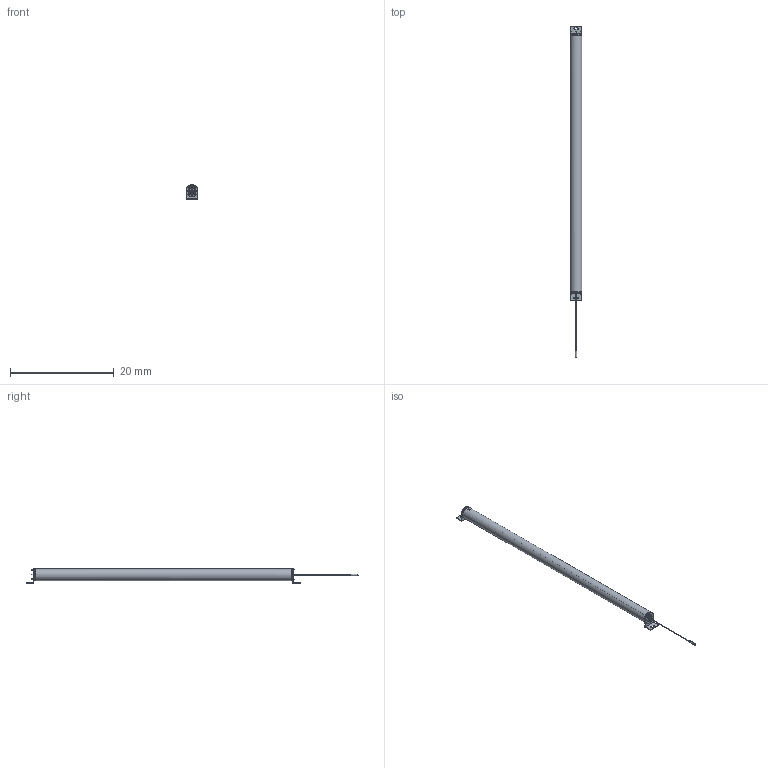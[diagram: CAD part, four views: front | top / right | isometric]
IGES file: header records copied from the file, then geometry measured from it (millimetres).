
Start section:  Autodesk DirectConnect version 7.0.27.0 ---- IGES version 5.3
Global section: file name: C:\ACADFILES\SS_PYLONS\CUSTOMER_FILES\SS-48-PYLON_3D_SMB_PT.iges; native system: Autodesk DirectConnect 7.0.27.0; preprocessor: 7.0.27.0; author: ENGINEERMAIN; organization: Unknown; date: 20150810.125439; units: millimetre
Bounding box: 2.26 x 64.01 x 2.75 mm (x, y, z)
Surface area: 1456.9 mm2 (no closed solid volume)
Topology: 0 solids, 0 shells, 772 faces, 3944 edges, 3944 vertices
Faces by surface type: bspline 772
